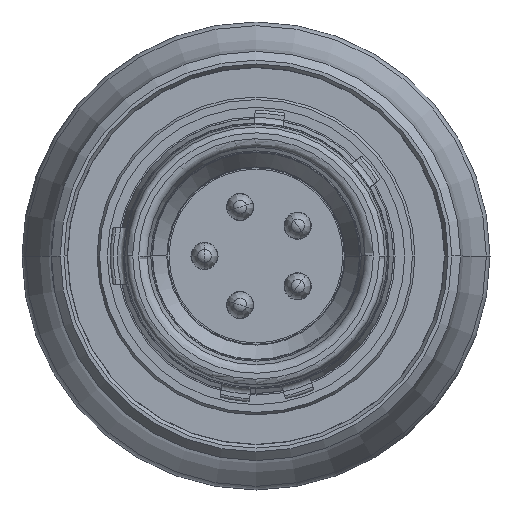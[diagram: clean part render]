
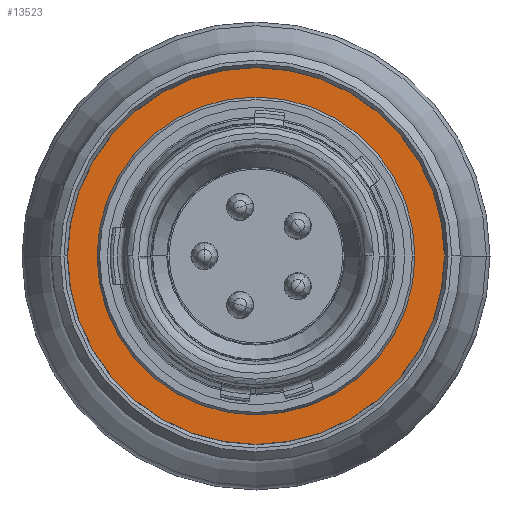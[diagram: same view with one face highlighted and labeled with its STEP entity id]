
A CAD part, left-side view. The second image highlights one B-rep face of the part: STEP entity #13523.
In plain terms, the highlighted planar face has unit normal (-1, 0, 0).
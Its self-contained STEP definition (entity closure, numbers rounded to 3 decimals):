
#1478=CARTESIAN_POINT('',(10.81,0.,0.));
#1479=DIRECTION('',(1.,0.,0.));
#1480=DIRECTION('',(0.,1.,0.));
#1481=AXIS2_PLACEMENT_3D('',#1478,#1479,#1480);
#1483=CARTESIAN_POINT('',(10.81,0.,0.));
#1484=DIRECTION('',(1.,0.,0.));
#1485=DIRECTION('',(0.,-1.,0.));
#1486=AXIS2_PLACEMENT_3D('',#1483,#1484,#1485);
#1488=CARTESIAN_POINT('',(10.81,0.,0.));
#1489=DIRECTION('',(-1.,0.,0.));
#1490=DIRECTION('',(0.,1.,0.));
#1491=AXIS2_PLACEMENT_3D('',#1488,#1489,#1490);
#1493=CARTESIAN_POINT('',(10.81,0.,0.));
#1494=DIRECTION('',(-1.,0.,0.));
#1495=DIRECTION('',(0.,-1.,0.));
#1496=AXIS2_PLACEMENT_3D('',#1493,#1494,#1495);
#9498=CARTESIAN_POINT('',(10.81,5.4,0.));
#9499=VERTEX_POINT('',#9498);
#9500=CARTESIAN_POINT('',(10.81,-5.4,0.));
#9501=VERTEX_POINT('',#9500);
#9504=CARTESIAN_POINT('',(10.81,6.4,0.));
#9505=CARTESIAN_POINT('',(10.81,-6.4,0.));
#9506=VERTEX_POINT('',#9504);
#9507=VERTEX_POINT('',#9505);
#13508=CARTESIAN_POINT('',(10.81,0.,0.));
#13509=DIRECTION('',(-1.,0.,0.));
#13510=DIRECTION('',(0.,1.,0.));
#13511=AXIS2_PLACEMENT_3D('',#13508,#13509,#13510);
#13512=PLANE('',#13511);
#13514=ORIENTED_EDGE('',*,*,#13513,.T.);
#13516=ORIENTED_EDGE('',*,*,#13515,.T.);
#13517=EDGE_LOOP('',(#13514,#13516));
#13518=FACE_OUTER_BOUND('',#13517,.F.);
#13519=ORIENTED_EDGE('',*,*,#13474,.T.);
#13520=ORIENTED_EDGE('',*,*,#13450,.T.);
#13521=EDGE_LOOP('',(#13519,#13520));
#13522=FACE_BOUND('',#13521,.F.);
#1482=CIRCLE('',#1481,6.4);
#1487=CIRCLE('',#1486,6.4);
#1492=CIRCLE('',#1491,5.4);
#1497=CIRCLE('',#1496,5.4);
#13450=EDGE_CURVE('',#9501,#9499,#1497,.T.);
#13474=EDGE_CURVE('',#9499,#9501,#1492,.T.);
#13513=EDGE_CURVE('',#9506,#9507,#1482,.T.);
#13515=EDGE_CURVE('',#9507,#9506,#1487,.T.);
#13523=ADVANCED_FACE('',(#13518,#13522),#13512,.T.);
